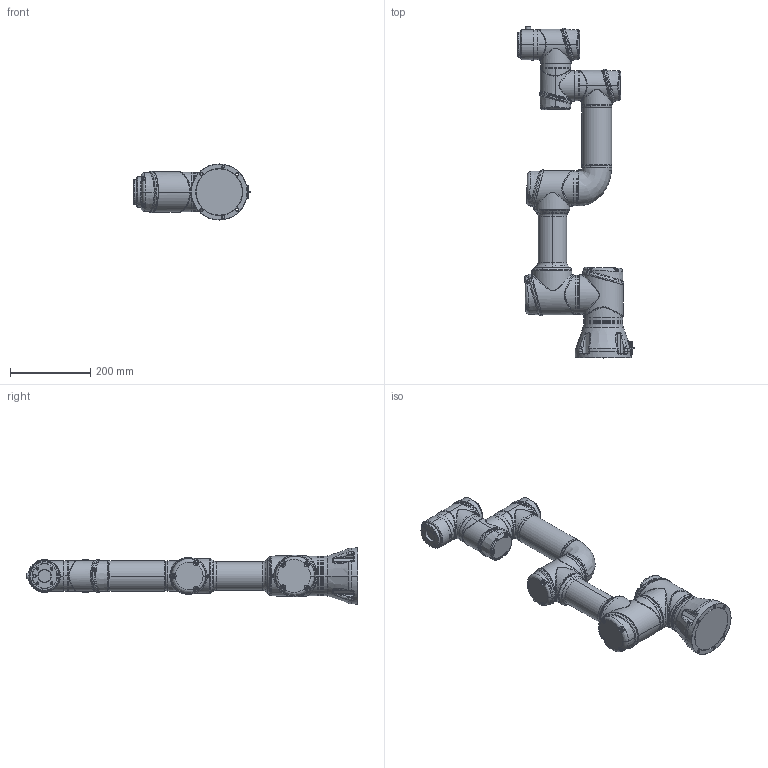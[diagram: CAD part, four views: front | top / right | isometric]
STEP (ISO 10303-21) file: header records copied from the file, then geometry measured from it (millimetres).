
FILE_DESCRIPTION (( 'STEP AP214' ), '1' );
FILE_NAME ('AUBO-i3H-DRW_Robot_Machine_A0.STEP', '2025-11-06T06:56:55', ( '' ), ( '' ), 'SwSTEP 2.0', 'SolidWorks 2024', '' );
FILE_SCHEMA (( 'AUTOMOTIVE_DESIGN' ));
Length unit declared in the file: millimetre
Products named in the file (8): i3-ID5; i3-底座; i3-ID1; i3-大臂; AUBO-i3H-DRW_Robot_Machine_A0; i3-小臂; i5-末端; i3-ID6
Assembly tree (7 placements, depth 2):
  AUBO-i3H-DRW_Robot_Machine_A0
    i3-底座
    i3-ID1
    i3-大臂
    i3-小臂
    i3-ID5
    i3-ID6
    i5-末端
Bounding box: 290 x 829 x 140 mm (x, y, z)
Volume: 7889699.7 mm3; surface area: 549823.1 mm2
Topology: 11 solids, 24 shells, 2424 faces, 6026 edges, 3732 vertices
Faces by surface type: plane 818, cylinder 689, bspline 579, cone 264, torus 66, sphere 8
Entity records: 161658 total; most frequent: CARTESIAN_POINT 85626, ORIENTED_EDGE 11944, DIRECTION 9939, EDGE_CURVE 5972, AXIS2_PLACEMENT_3D 3876, VERTEX_POINT 3732, EDGE_LOOP 2582, FACE_OUTER_BOUND 2424
